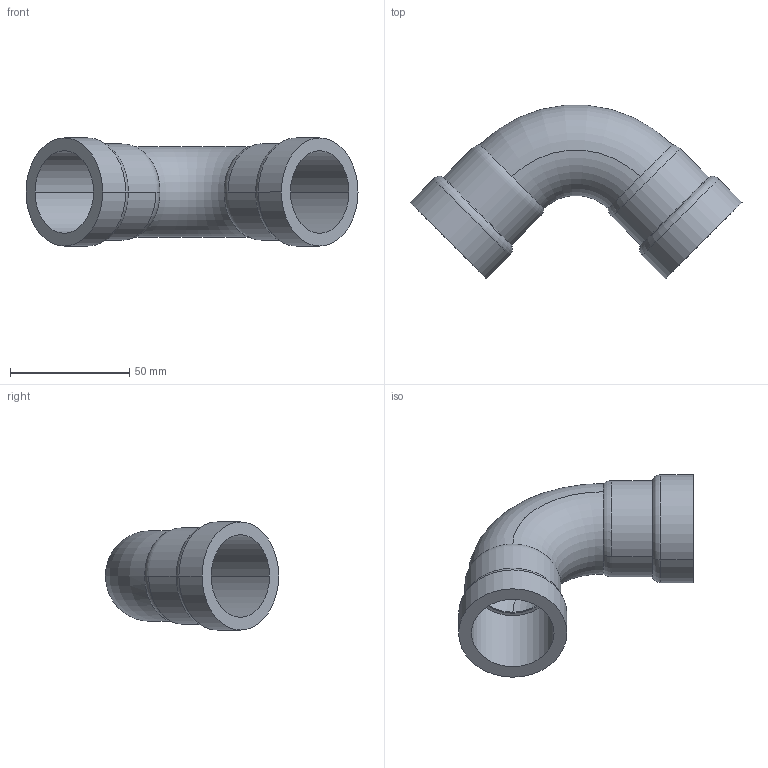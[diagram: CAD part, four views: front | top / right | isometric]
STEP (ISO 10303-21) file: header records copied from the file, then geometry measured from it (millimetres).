
FILE_DESCRIPTION(('Creo Elements/Direct Modeling STEP Export'),'2;1');
FILE_NAME('C9408_1.stp','2020-06-23T14:50:27',(''),(''),'PTC Creo Elements/Direct Modeling STEP processor for AP214 (Solid Model)','PTC Creo Elements/Direct Modeling 19.0C 15-Aug-2015 (C) Parametric Technology GmbH','');
FILE_SCHEMA(('AUTOMOTIVE_DESIGN { 1 0 10303 214 1 1 1 1 }'));
Length unit declared in the file: millimetre
Products named in the file (1): 9408
Bounding box: 139.22 x 72.66 x 45.4 mm (x, y, z)
Volume: 56329.6 mm3; surface area: 33376.3 mm2
Topology: 1 solids, 1 shells, 38 faces, 84 edges, 52 vertices
Faces by surface type: cylinder 16, torus 12, plane 6, cone 4
Entity records: 1737 total; most frequent: CARTESIAN_POINT 918, DIRECTION 168, ORIENTED_EDGE 168, EDGE_CURVE 84, AXIS2_PLACEMENT_3D 74, VERTEX_POINT 52, EDGE_LOOP 44, FACE_OUTER_BOUND 38
